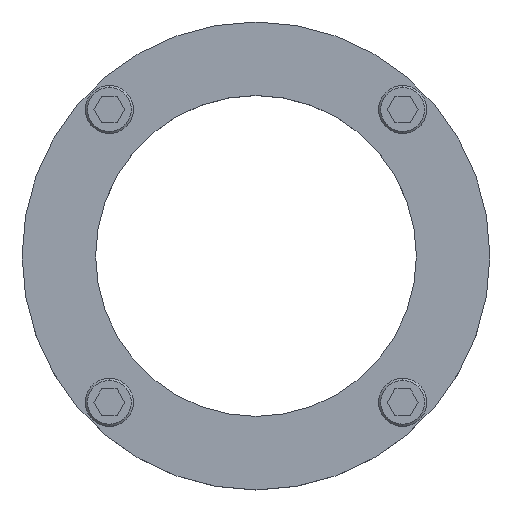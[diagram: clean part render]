
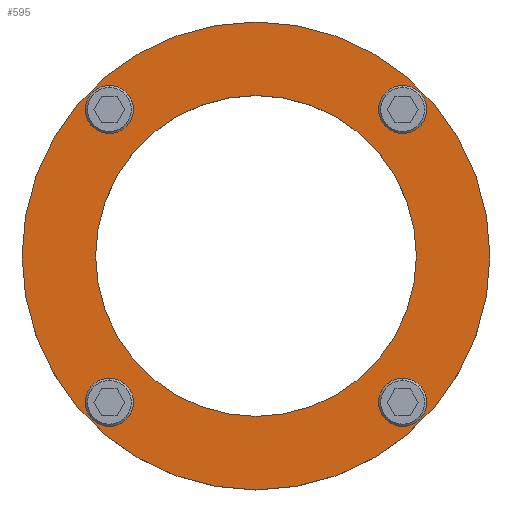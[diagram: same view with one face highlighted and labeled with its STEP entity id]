
A CAD part, top view. The second image highlights one B-rep face of the part: STEP entity #595.
In plain terms, the highlighted planar face has unit normal (0, 0, 1).
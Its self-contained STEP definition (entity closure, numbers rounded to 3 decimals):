
#595=ADVANCED_FACE('',(#779,#780,#781,#782,#783,#784),#725,.T.);
#725=PLANE('',#2192);
#779=FACE_BOUND('',#839,.T.);
#780=FACE_BOUND('',#840,.T.);
#781=FACE_BOUND('',#841,.T.);
#782=FACE_BOUND('',#842,.T.);
#783=FACE_BOUND('',#843,.T.);
#784=FACE_BOUND('',#844,.T.);
#839=EDGE_LOOP('',(#1007,#1008));
#840=EDGE_LOOP('',(#1009,#1010));
#841=EDGE_LOOP('',(#1011,#1012));
#842=EDGE_LOOP('',(#1013,#1014));
#843=EDGE_LOOP('',(#1015,#1016));
#844=EDGE_LOOP('',(#1017,#1018));
#1007=ORIENTED_EDGE('',*,*,#1759,.T.);
#1008=ORIENTED_EDGE('',*,*,#1760,.T.);
#1009=ORIENTED_EDGE('',*,*,#1761,.T.);
#1010=ORIENTED_EDGE('',*,*,#1762,.T.);
#1011=ORIENTED_EDGE('',*,*,#1763,.T.);
#1012=ORIENTED_EDGE('',*,*,#1764,.T.);
#1013=ORIENTED_EDGE('',*,*,#1765,.T.);
#1014=ORIENTED_EDGE('',*,*,#1766,.T.);
#1015=ORIENTED_EDGE('',*,*,#1767,.T.);
#1016=ORIENTED_EDGE('',*,*,#1768,.T.);
#1017=ORIENTED_EDGE('',*,*,#1769,.T.);
#1018=ORIENTED_EDGE('',*,*,#1770,.T.);
#1575=VERTEX_POINT('',#3130);
#1576=VERTEX_POINT('',#3131);
#1577=VERTEX_POINT('',#3134);
#1578=VERTEX_POINT('',#3135);
#1579=VERTEX_POINT('',#3138);
#1580=VERTEX_POINT('',#3139);
#1581=VERTEX_POINT('',#3142);
#1582=VERTEX_POINT('',#3143);
#1583=VERTEX_POINT('',#3146);
#1584=VERTEX_POINT('',#3147);
#1585=VERTEX_POINT('',#3150);
#1586=VERTEX_POINT('',#3151);
#1759=EDGE_CURVE('',#1575,#1576,#2043,.T.);
#1760=EDGE_CURVE('',#1576,#1575,#2044,.T.);
#1761=EDGE_CURVE('',#1577,#1578,#2045,.T.);
#1762=EDGE_CURVE('',#1578,#1577,#2046,.T.);
#1763=EDGE_CURVE('',#1579,#1580,#2047,.T.);
#1764=EDGE_CURVE('',#1580,#1579,#2048,.T.);
#1765=EDGE_CURVE('',#1581,#1582,#2049,.T.);
#1766=EDGE_CURVE('',#1582,#1581,#2050,.T.);
#1767=EDGE_CURVE('',#1583,#1584,#2051,.T.);
#1768=EDGE_CURVE('',#1584,#1583,#2052,.T.);
#1769=EDGE_CURVE('',#1585,#1586,#2053,.T.);
#1770=EDGE_CURVE('',#1586,#1585,#2054,.T.);
#2043=CIRCLE('',#2180,87.5);
#2044=CIRCLE('',#2181,87.5);
#2045=CIRCLE('',#2182,7.);
#2046=CIRCLE('',#2183,7.);
#2047=CIRCLE('',#2184,7.);
#2048=CIRCLE('',#2185,7.);
#2049=CIRCLE('',#2186,7.);
#2050=CIRCLE('',#2187,7.);
#2051=CIRCLE('',#2188,7.);
#2052=CIRCLE('',#2189,7.);
#2053=CIRCLE('',#2190,60.);
#2054=CIRCLE('',#2191,60.);
#2180=AXIS2_PLACEMENT_3D('',#3129,#2448,#2449);
#2181=AXIS2_PLACEMENT_3D('',#3132,#2450,#2451);
#2182=AXIS2_PLACEMENT_3D('',#3133,#2452,#2453);
#2183=AXIS2_PLACEMENT_3D('',#3136,#2454,#2455);
#2184=AXIS2_PLACEMENT_3D('',#3137,#2456,#2457);
#2185=AXIS2_PLACEMENT_3D('',#3140,#2458,#2459);
#2186=AXIS2_PLACEMENT_3D('',#3141,#2460,#2461);
#2187=AXIS2_PLACEMENT_3D('',#3144,#2462,#2463);
#2188=AXIS2_PLACEMENT_3D('',#3145,#2464,#2465);
#2189=AXIS2_PLACEMENT_3D('',#3148,#2466,#2467);
#2190=AXIS2_PLACEMENT_3D('',#3149,#2468,#2469);
#2191=AXIS2_PLACEMENT_3D('',#3152,#2470,#2471);
#2192=AXIS2_PLACEMENT_3D('',#3153,#2472,#2473);
#2448=DIRECTION('',(0.,0.,1.));
#2449=DIRECTION('',(1.,0.,0.));
#2450=DIRECTION('',(0.,0.,1.));
#2451=DIRECTION('',(-1.,0.,0.));
#2452=DIRECTION('',(0.,0.,-1.));
#2453=DIRECTION('',(-1.,0.,0.));
#2454=DIRECTION('',(0.,0.,-1.));
#2455=DIRECTION('',(1.,0.,0.));
#2456=DIRECTION('',(0.,0.,-1.));
#2457=DIRECTION('',(-1.,0.,0.));
#2458=DIRECTION('',(0.,0.,-1.));
#2459=DIRECTION('',(1.,0.,0.));
#2460=DIRECTION('',(0.,0.,-1.));
#2461=DIRECTION('',(-1.,0.,0.));
#2462=DIRECTION('',(0.,0.,-1.));
#2463=DIRECTION('',(1.,0.,0.));
#2464=DIRECTION('',(0.,0.,-1.));
#2465=DIRECTION('',(-1.,0.,0.));
#2466=DIRECTION('',(0.,0.,-1.));
#2467=DIRECTION('',(1.,0.,0.));
#2468=DIRECTION('',(0.,0.,-1.));
#2469=DIRECTION('',(-1.,0.,0.));
#2470=DIRECTION('',(0.,0.,-1.));
#2471=DIRECTION('',(1.,0.,0.));
#2472=DIRECTION('',(0.,0.,1.));
#2473=DIRECTION('',(0.,-1.,0.));
#3129=CARTESIAN_POINT('',(0.,0.,21.));
#3130=CARTESIAN_POINT('',(0.,87.5,21.));
#3131=CARTESIAN_POINT('',(0.,-87.5,21.));
#3132=CARTESIAN_POINT('',(0.,0.,21.));
#3133=CARTESIAN_POINT('',(54.852,-54.75,21.));
#3134=CARTESIAN_POINT('',(54.852,-47.75,21.));
#3135=CARTESIAN_POINT('',(54.852,-61.75,21.));
#3136=CARTESIAN_POINT('',(54.852,-54.75,21.));
#3137=CARTESIAN_POINT('',(54.852,54.75,21.));
#3138=CARTESIAN_POINT('',(54.852,61.75,21.));
#3139=CARTESIAN_POINT('',(54.852,47.75,21.));
#3140=CARTESIAN_POINT('',(54.852,54.75,21.));
#3141=CARTESIAN_POINT('',(-54.852,54.75,21.));
#3142=CARTESIAN_POINT('',(-54.852,61.75,21.));
#3143=CARTESIAN_POINT('',(-54.852,47.75,21.));
#3144=CARTESIAN_POINT('',(-54.852,54.75,21.));
#3145=CARTESIAN_POINT('',(-54.852,-54.75,21.));
#3146=CARTESIAN_POINT('',(-54.852,-47.75,21.));
#3147=CARTESIAN_POINT('',(-54.852,-61.75,21.));
#3148=CARTESIAN_POINT('',(-54.852,-54.75,21.));
#3149=CARTESIAN_POINT('',(0.,0.,21.));
#3150=CARTESIAN_POINT('',(0.,60.,21.));
#3151=CARTESIAN_POINT('',(0.,-60.,21.));
#3152=CARTESIAN_POINT('',(0.,0.,21.));
#3153=CARTESIAN_POINT('',(87.5,0.,21.));
